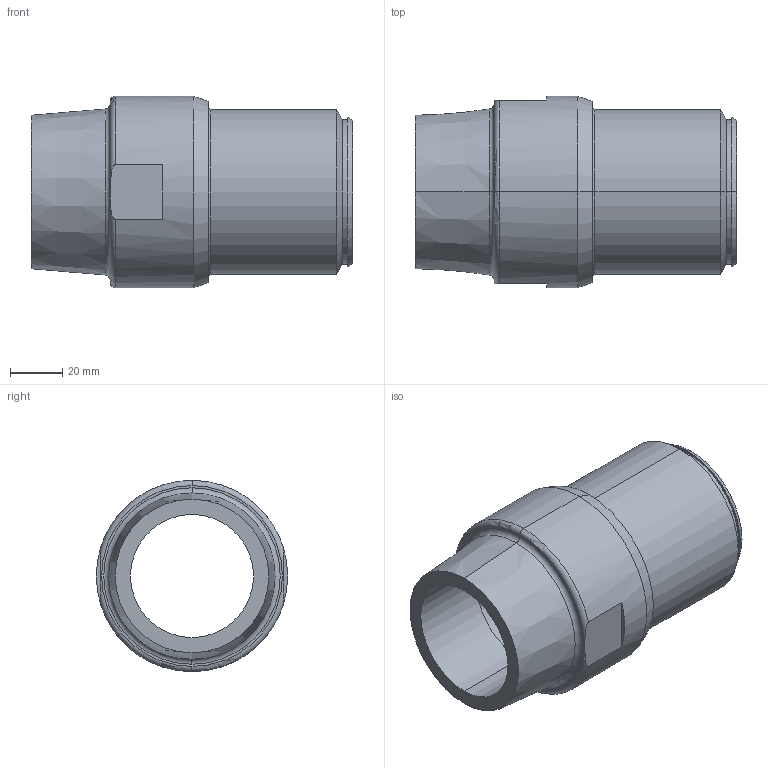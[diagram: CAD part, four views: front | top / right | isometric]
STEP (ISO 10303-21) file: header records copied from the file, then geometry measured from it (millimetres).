
FILE_DESCRIPTION (( 'STEP AP203' ), '1' );
FILE_NAME ('KP_C15-63M.step', '2011-08-08T12:04:18', ( '' ), ( '' ), 'SwSTEP 2.0', 'SolidWorks 2011', '' );
FILE_SCHEMA (( 'CONFIG_CONTROL_DESIGN' ));
Length unit declared in the file: millimetre
Products named in the file (1): KP_C15-63M
Bounding box: 122.5 x 73 x 73 mm (x, y, z)
Volume: 171187.4 mm3; surface area: 48538.1 mm2
Topology: 1 solids, 2 shells, 40 faces, 84 edges, 52 vertices
Faces by surface type: cylinder 12, plane 12, cone 10, torus 6
Entity records: 1247 total; most frequent: CARTESIAN_POINT 259, DIRECTION 218, ORIENTED_EDGE 168, AXIS2_PLACEMENT_3D 95, EDGE_CURVE 84, CIRCLE 54, VERTEX_POINT 52, EDGE_LOOP 48
